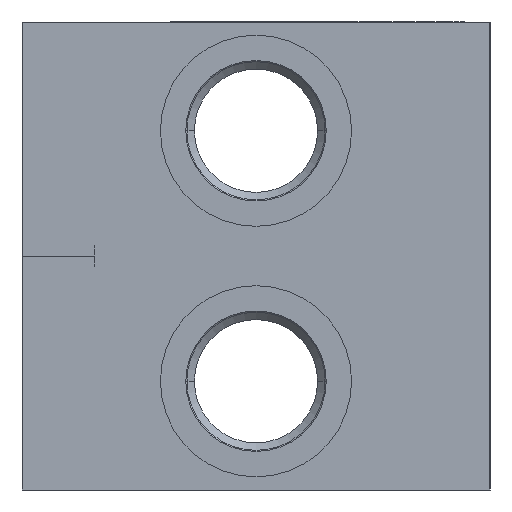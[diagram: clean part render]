
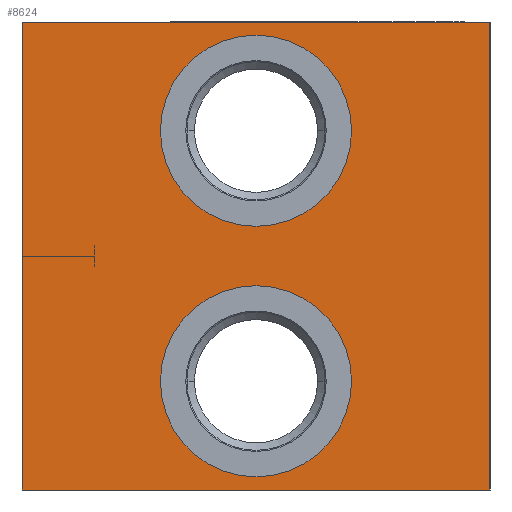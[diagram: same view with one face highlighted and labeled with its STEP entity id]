
A CAD part, left-side view. The second image highlights one B-rep face of the part: STEP entity #8624.
In plain terms, the highlighted planar face has unit normal (-1, 0, 0).
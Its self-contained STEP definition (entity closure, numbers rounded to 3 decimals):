
#30=DIRECTION('',(0.,-1.,0.));
#31=VECTOR('',#30,71.);
#32=CARTESIAN_POINT('',(0.,71.,0.));
#33=LINE('',#32,#31);
#275=DIRECTION('',(0.,0.,-1.));
#276=VECTOR('',#275,71.);
#277=CARTESIAN_POINT('',(0.,0.,0.));
#278=LINE('',#277,#276);
#1980=DIRECTION('',(0.,0.,-1.));
#1981=VECTOR('',#1980,71.);
#1982=CARTESIAN_POINT('',(0.,71.,0.));
#1983=LINE('',#1982,#1981);
#1987=CARTESIAN_POINT('',(0.,35.5,-54.5));
#1988=DIRECTION('',(1.,0.,0.));
#1989=DIRECTION('',(0.,-1.,0.));
#1990=AXIS2_PLACEMENT_3D('',#1987,#1988,#1989);
#1995=CARTESIAN_POINT('',(0.,35.5,-54.5));
#1996=DIRECTION('',(1.,0.,0.));
#1997=DIRECTION('',(0.,1.,0.));
#1998=AXIS2_PLACEMENT_3D('',#1995,#1996,#1997);
#2003=CARTESIAN_POINT('',(0.,35.5,-16.5));
#2004=DIRECTION('',(1.,0.,0.));
#2005=DIRECTION('',(0.,-1.,0.));
#2006=AXIS2_PLACEMENT_3D('',#2003,#2004,#2005);
#2011=CARTESIAN_POINT('',(0.,35.5,-16.5));
#2012=DIRECTION('',(1.,0.,0.));
#2013=DIRECTION('',(0.,1.,0.));
#2014=AXIS2_PLACEMENT_3D('',#2011,#2012,#2013);
#2040=DIRECTION('',(0.,-1.,0.));
#2041=VECTOR('',#2040,71.);
#2042=CARTESIAN_POINT('',(0.,71.,-71.));
#2043=LINE('',#2042,#2041);
#7247=CARTESIAN_POINT('',(0.,0.,0.));
#7249=VERTEX_POINT('',#7247);
#7253=CARTESIAN_POINT('',(0.,71.,0.));
#7254=VERTEX_POINT('',#7253);
#7255=CARTESIAN_POINT('',(0.,0.,-71.));
#7257=VERTEX_POINT('',#7255);
#7261=CARTESIAN_POINT('',(0.,71.,-71.));
#7262=VERTEX_POINT('',#7261);
#7291=CARTESIAN_POINT('',(0.,21.,-54.5));
#7292=CARTESIAN_POINT('',(0.,50.,-54.5));
#7293=VERTEX_POINT('',#7291);
#7294=VERTEX_POINT('',#7292);
#7307=CARTESIAN_POINT('',(0.,21.,-16.5));
#7308=CARTESIAN_POINT('',(0.,50.,-16.5));
#7309=VERTEX_POINT('',#7307);
#7310=VERTEX_POINT('',#7308);
#8600=CARTESIAN_POINT('',(0.,71.,0.));
#8601=DIRECTION('',(-1.,0.,0.));
#8602=DIRECTION('',(0.,-1.,0.));
#8603=AXIS2_PLACEMENT_3D('',#8600,#8601,#8602);
#8604=PLANE('',#8603);
#8605=ORIENTED_EDGE('',*,*,#8088,.T.);
#8606=ORIENTED_EDGE('',*,*,#8198,.T.);
#8608=ORIENTED_EDGE('',*,*,#8607,.F.);
#8609=ORIENTED_EDGE('',*,*,#8285,.F.);
#8610=EDGE_LOOP('',(#8605,#8606,#8608,#8609));
#8611=FACE_OUTER_BOUND('',#8610,.F.);
#8613=ORIENTED_EDGE('',*,*,#8612,.F.);
#8615=ORIENTED_EDGE('',*,*,#8614,.F.);
#8616=EDGE_LOOP('',(#8613,#8615));
#8617=FACE_BOUND('',#8616,.F.);
#8619=ORIENTED_EDGE('',*,*,#8618,.F.);
#8621=ORIENTED_EDGE('',*,*,#8620,.F.);
#8622=EDGE_LOOP('',(#8619,#8621));
#8623=FACE_BOUND('',#8622,.F.);
#1991=CIRCLE('',#1990,14.5);
#1999=CIRCLE('',#1998,14.5);
#2007=CIRCLE('',#2006,14.5);
#2015=CIRCLE('',#2014,14.5);
#8088=EDGE_CURVE('',#7254,#7249,#33,.T.);
#8198=EDGE_CURVE('',#7249,#7257,#278,.T.);
#8285=EDGE_CURVE('',#7254,#7262,#1983,.T.);
#8607=EDGE_CURVE('',#7262,#7257,#2043,.T.);
#8612=EDGE_CURVE('',#7293,#7294,#1991,.T.);
#8614=EDGE_CURVE('',#7294,#7293,#1999,.T.);
#8618=EDGE_CURVE('',#7309,#7310,#2007,.T.);
#8620=EDGE_CURVE('',#7310,#7309,#2015,.T.);
#8624=ADVANCED_FACE('',(#8611,#8617,#8623),#8604,.T.);
